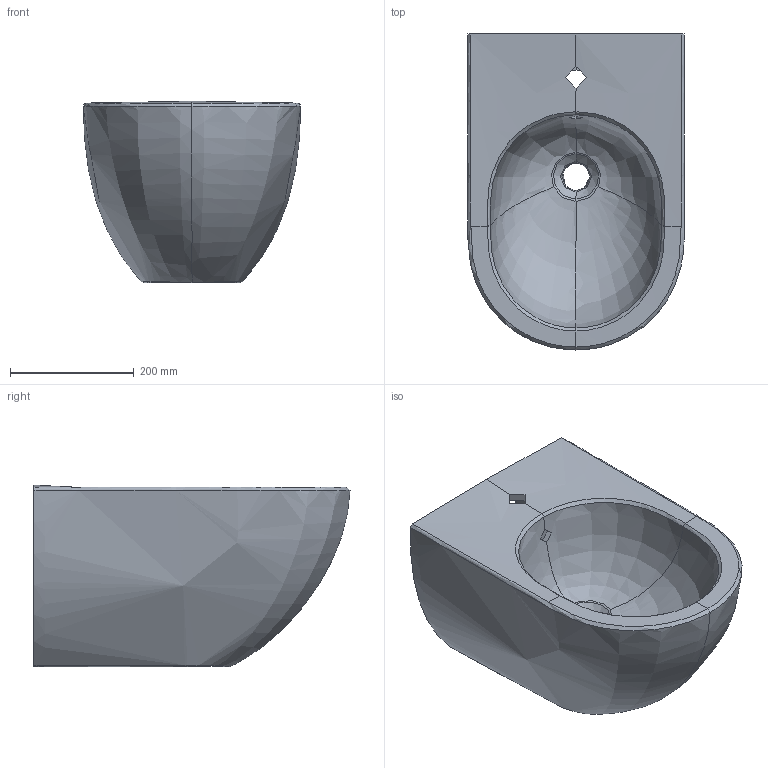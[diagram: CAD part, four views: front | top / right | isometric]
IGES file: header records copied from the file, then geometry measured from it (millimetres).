
Global section: file name: 500601; native system: Autodesk Inventor 2018; preprocessor: unknown; author: JANAN; date: 20200224.081301; units: millimetre
Bounding box: 350.22 x 510 x 293 mm (x, y, z)
Volume: 19059944 mm3; surface area: 868065.9 mm2
Topology: 1 solids, 1 shells, 442 faces, 1080 edges, 628 vertices
Faces by surface type: bspline 442
